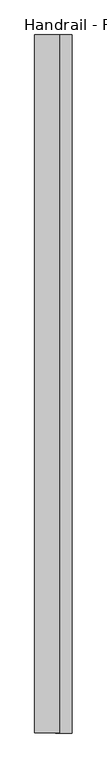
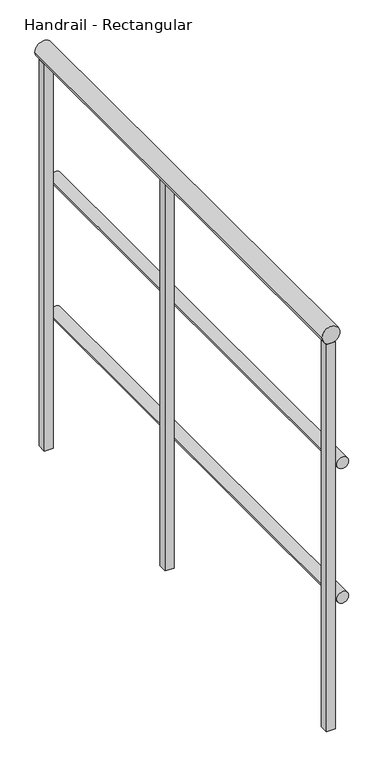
"""IFC4 building model written with IfcOpenShell, lengths in millimetres: railing geometry, Handrail - Rectangular."""

from ifc_helpers import new_model, si_unit, point, frame, frame_2d, origin, place, context, project, spatial, polyline, circle_curve, trimmed, segment, composite_curve, outline, extrude, source, transform, mapped, element, save


def handrail_rectangular_068176ca(model_context):
    return source(origin(), model_context, "Body", "SweptSolid", [
        extrude(outline(composite_curve([segment(trimmed(circle_curve(frame_2d((9740.9, 2322.5410437)), 12.7), [point((9740.9, 2335.2410437))], [point((9740.9, 2309.8410437))], False, "CARTESIAN"), True, "CONTINUOUS"), segment(trimmed(circle_curve(frame_2d((9740.9, 2322.5410437)), 12.7), [point((9740.9, 2309.8410437))], [point((9740.9, 2335.2410437))], False, "CARTESIAN"), True, "CONTINUOUS")], self_intersect=False)), frame((0.0, -35349.9683133, 0.0), z_axis=(0.0, 1.0, 0.0), x_axis=(0.0, 0.0, 1.0)), (0.0, 0.0, 1.0), 1066.8),
        extrude(outline(composite_curve([segment(trimmed(circle_curve(frame_2d((9436.1, 2322.5410437)), 12.7), [point((9436.1, 2335.2410437))], [point((9436.1, 2309.8410437))], False, "CARTESIAN"), True, "CONTINUOUS"), segment(trimmed(circle_curve(frame_2d((9436.1, 2322.5410437)), 12.7), [point((9436.1, 2309.8410437))], [point((9436.1, 2335.2410437))], False, "CARTESIAN"), True, "CONTINUOUS")], self_intersect=False)), frame((0.0, -35349.9683133, 0.0), z_axis=(0.0, 1.0, 0.0), x_axis=(0.0, 0.0, 1.0)), (0.0, 0.0, 1.0), 1066.8),
        extrude(outline(composite_curve([segment(trimmed(circle_curve(frame_2d((10039.35, 2297.1410437)), 19.05), [point((10039.35, 2316.1910437))], [point((10039.35, 2278.0910437))], False, "CARTESIAN"), True, "CONTINUOUS"), segment(trimmed(circle_curve(frame_2d((10039.35, 2297.1410437)), 19.05), [point((10039.35, 2278.0910437))], [point((10039.35, 2316.1910437))], False, "CARTESIAN"), True, "CONTINUOUS")], self_intersect=False)), frame((0.0, -35349.9683133, 0.0), z_axis=(0.0, 1.0, 0.0), x_axis=(0.0, 0.0, 1.0)), (0.0, 0.0, 1.0), 1066.8),
        extrude(outline(polyline([(2287.6160437, -34749.8933133), (2287.6160437, -34730.8433133), (2306.6660437, -34730.8433133), (2306.6660437, -34749.8933133), (2287.6160437, -34749.8933133)])), frame((0.0, 0.0, 9144.0), z_axis=(0.0, 0.0, 1.0), x_axis=(1.0, 0.0, 0.0)), (0.0, 0.0, 1.0), 876.3),
        extrude(outline(polyline([(2287.6160437, -34302.2183133), (2287.6160437, -34283.1683133), (2306.6660437, -34283.1683133), (2306.6660437, -34302.2183133), (2287.6160437, -34302.2183133)])), frame((0.0, 0.0, 9144.0), z_axis=(0.0, 0.0, 1.0), x_axis=(1.0, 0.0, 0.0)), (0.0, 0.0, 1.0), 876.3),
        extrude(outline(polyline([(2287.6160437, -35349.9683133), (2287.6160437, -35330.9183133), (2306.6660437, -35330.9183133), (2306.6660437, -35349.9683133), (2287.6160437, -35349.9683133)])), frame((0.0, 0.0, 9144.0), z_axis=(0.0, 0.0, 1.0), x_axis=(1.0, 0.0, 0.0)), (0.0, 0.0, 1.0), 876.3),
    ])


if __name__ == "__main__":
    model = new_model("IFC4")
    model_context = context("Model", 3, world=origin())
    ifc_project = project(units=[si_unit("LENGTHUNIT", "METRE", prefix="MILLI")], contexts=[model_context])
    site = spatial("IfcSite", under=ifc_project)
    building = spatial("IfcBuilding", under=site)
    placement = place(None, origin())
    handrail_rectangular_shape = handrail_rectangular_068176ca(model_context)
    element("IfcRailing", 1, ObjectType="Handrail - Rectangular", at=placement, inside=building, context=model_context, shape_type="MappedRepresentation", body=[
        mapped(handrail_rectangular_shape, transform((0.0, 0.0, 0.0), x_axis=(1.0, 0.0, 0.0), y_axis=(0.0, 1.0, 0.0), z_axis=(0.0, 0.0, 1.0))),
    ])
    save(model, "model.ifc")
